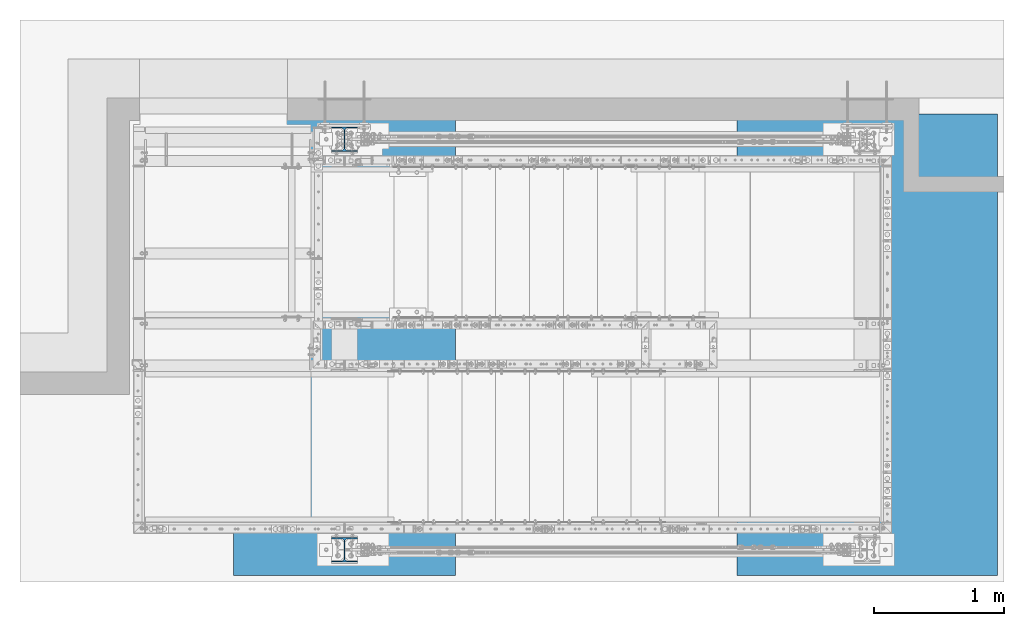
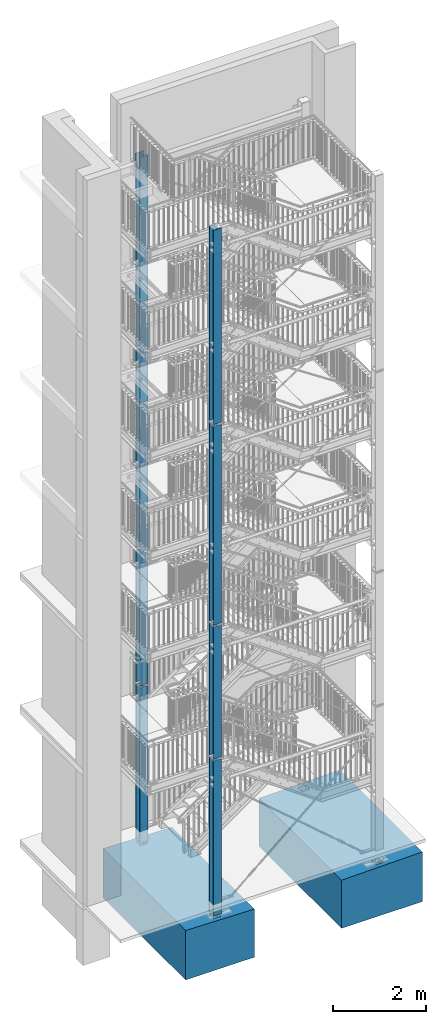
# One storey, part 1 of 831: 8 columns, 2 footings, 64 openings.
"""IFC2X3 building model written with IfcOpenShell, lengths in millimetres."""

from ifc_helpers import new_model, entity, si_unit, converted_unit, frame, origin, origin_with_axes, origin_2d, origin_2d_with_axis, place, context, project, spatial, polyline, circle, i_section, outline, extrude, clip, halfspace, material, layer, layer_set, element, save


model = new_model("IFC2X3")

# Units and contexts
model_context = context("Model", 3, precision=1e-09, world=origin_with_axes())
ifc_project = project(units=[si_unit("LENGTHUNIT", "METRE", prefix="MILLI"), si_unit("AREAUNIT", "SQUARE_METRE"), si_unit("VOLUMEUNIT", "CUBIC_METRE"), converted_unit("PLANEANGLEUNIT", "DEGREE", entity("IfcPlaneAngleMeasure", 0.01745329), si_unit("PLANEANGLEUNIT", "RADIAN"), dimensions=[0, 0, 0, 0, 0, 0, 0])], contexts=[model_context])

# Site, building, storey
site_placement = place(None, origin_with_axes())
site = spatial("IfcSite", under=ifc_project, at=site_placement, Name="Site", CompositionType="ELEMENT")
building_placement = place(site_placement, origin_with_axes())
building = spatial("IfcBuilding", under=site, at=building_placement, Name="Struktur 1", CompositionType="ELEMENT")
storey_placement = place(building_placement, origin_with_axes())
storey = spatial("IfcBuildingStorey", under=building, at=storey_placement, Name="Default Storey", CompositionType="ELEMENT", Elevation=0.0)

# Footing, openings
ifc_material_1 = material(Name="C20/25")
ifc_layer = layer(ifc_material_1, 1300.0)
ifc_layer_set = layer_set([ifc_layer], Name="C20/25")
footing_1_placement = place(None, frame((4856.713402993, 5941.736971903, -1280.0), z_axis=(0.0, 0.0, 1.0), x_axis=(1.0, 0.0, 0.0)))
footing_1 = element("IfcFooting", 1, at=footing_1_placement, inside=storey, material=ifc_layer_set, Name="Foundation", ObjectType="Foundation", context=model_context, shape_type="SweptSolid", body=[
    extrude(outline(polyline([(-850.0, -1770.0), (850.0, -1770.0), (850.0, 1770.0), (-850.0, 1770.0), (-850.0, -1770.0)])), origin_with_axes(), (0.0, 0.0, 1.0), 1300.0),
])
opening_1_placement = place(footing_1_placement, frame((0.0, 1770.1, 650.0), z_axis=(0.0, -1.0, 0.0), x_axis=(1.0, 0.0, 0.0)))
element("IfcOpeningElement", 2, at=opening_1_placement, cuts=footing_1, ObjectType="Opening", context=model_context, shape_type="SweptSolid", body=[
    extrude(outline(polyline([(1029.872382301, 800.718084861), (-1082.160017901, 800.718084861), (-1082.160017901, 649.778764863), (1172.238609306, 603.364675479), (1029.872382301, 800.718084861)])), origin(), (0.0, 0.0, 1.0), 3540.2),
])
opening_2_placement = place(footing_1_placement, frame((0.0, 0.0, 1090.0), z_axis=(0.0, 0.0, 1.0), x_axis=(1.0, 0.0, 0.0)))
element("IfcOpeningElement", 3, at=opening_2_placement, cuts=footing_1, ObjectType="Opening", context=model_context, shape_type="SweptSolid", body=[
    extrude(outline(polyline([(-90.001, -1665.001), (90.001, -1665.001), (90.001, -1484.999), (-90.001, -1484.999), (-90.001, -1665.001)])), origin(), (0.0, 0.0, 1.0), 210.1),
])
opening_3_placement = place(footing_1_placement, frame((0.0, 0.0, 1090.0), z_axis=(0.0, 0.0, 1.0), x_axis=(1.0, 0.0, 0.0)))
element("IfcOpeningElement", 4, at=opening_3_placement, cuts=footing_1, ObjectType="Opening", context=model_context, shape_type="SweptSolid", body=[
    extrude(outline(polyline([(-90.001, 1484.999), (90.001, 1484.999), (90.001, 1665.001), (-90.001, 1665.001), (-90.001, 1484.999)])), origin(), (0.0, 0.0, 1.0), 210.1),
])

footing_2_placement = place(None, frame((8866.713402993, 5941.736971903, -1280.0), z_axis=(0.0, 0.0, 1.0), x_axis=(1.0, 0.0, 0.0)))
footing_2 = element("IfcFooting", 5, at=footing_2_placement, inside=storey, material=ifc_layer_set, Name="Foundation", ObjectType="Foundation", context=model_context, shape_type="SweptSolid", body=[
    extrude(outline(polyline([(-1000.0, -1770.0), (1000.0, -1770.0), (1000.0, 1770.0), (-1000.0, 1770.0), (-1000.0, -1770.0)])), origin_with_axes(), (0.0, 0.0, 1.0), 1300.0),
])
opening_4_placement = place(footing_2_placement, frame((0.0, 1770.1, 650.0), z_axis=(0.0, -1.0, 0.0), x_axis=(1.0, 0.0, 0.0)))
element("IfcOpeningElement", 6, at=opening_4_placement, cuts=footing_2, ObjectType="Opening", context=model_context, shape_type="SweptSolid", body=[
    extrude(outline(polyline([(-1237.486642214, 605.249266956), (1326.252549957, 656.524050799), (1326.252549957, 820.352725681), (-1212.417197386, 820.352725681), (-1237.486642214, 605.249266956)])), origin(), (0.0, 0.0, 1.0), 3540.2),
])
opening_5_placement = place(footing_2_placement, frame((0.0, 0.0, 1090.0), z_axis=(0.0, 0.0, 1.0), x_axis=(1.0, 0.0, 0.0)))
element("IfcOpeningElement", 7, at=opening_5_placement, cuts=footing_2, ObjectType="Opening", context=model_context, shape_type="SweptSolid", body=[
    extrude(outline(polyline([(-90.001, 1484.999), (90.001, 1484.999), (90.001, 1665.001), (-90.001, 1665.001), (-90.001, 1484.999)])), origin(), (0.0, 0.0, 1.0), 210.1),
])
opening_6_placement = place(footing_2_placement, frame((0.0, 0.0, 1090.0), z_axis=(0.0, 0.0, 1.0), x_axis=(1.0, 0.0, 0.0)))
element("IfcOpeningElement", 8, at=opening_6_placement, cuts=footing_2, ObjectType="Opening", context=model_context, shape_type="SweptSolid", body=[
    extrude(outline(polyline([(-90.001, -1665.001), (90.001, -1665.001), (90.001, -1484.999), (-90.001, -1484.999), (-90.001, -1665.001)])), origin(), (0.0, 0.0, 1.0), 210.1),
])

# Column, openings
ifc_material_2 = material(Name="S235JR")
column_1_placement = place(None, frame((4856.713402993, 7516.736971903, 60.0), z_axis=(0.0, 0.0, -1.0), x_axis=(1.0, 0.0, 0.0)))
column_1 = element("IfcColumn", 9, at=column_1_placement, inside=storey, material=ifc_material_2, Name="Column", ObjectType="Column", context=model_context, shape_type="Clipping", body=[
    clip(extrude(i_section(OverallWidth=200.0, OverallDepth=190.0, WebThickness=6.5, FlangeThickness=10.0, FilletRadius=18.0, at=origin_2d()), origin(), (0.0, 0.0, -1.0), 4227.931142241), halfspace(frame((-4856.713402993, 7516.736971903, -4064.999), z_axis=(0.0, 0.0, 1.0), x_axis=(-1.0, 0.0, 0.0)), True)),
])
opening_7_placement = place(column_1_placement, frame((-3.75, 60.0, -12.0), z_axis=(1.0, 0.0, 0.0), x_axis=(0.0, 0.0, -1.0)))
element("IfcOpeningElement", 10, at=opening_7_placement, cuts=column_1, ObjectType="Opening", context=model_context, shape_type="SweptSolid", body=[
    extrude(circle(Radius=6.001, at=origin_2d_with_axis()), origin(), (0.0, 0.0, 1.0), 7.5),
])
opening_8_placement = place(column_1_placement, frame((-3.75, -60.0, -12.0), z_axis=(1.0, 0.0, 0.0), x_axis=(0.0, 0.0, -1.0)))
element("IfcOpeningElement", 11, at=opening_8_placement, cuts=column_1, ObjectType="Opening", context=model_context, shape_type="SweptSolid", body=[
    extrude(circle(Radius=6.001, at=origin_2d_with_axis()), origin(), (0.0, 0.0, 1.0), 7.5),
])
opening_9_placement = place(column_1_placement, frame((-60.0, 84.5, -3407.0), z_axis=(0.0, 1.0, 0.0), x_axis=(-1.0, 0.0, 0.0)))
element("IfcOpeningElement", 12, at=opening_9_placement, cuts=column_1, ObjectType="Opening", context=model_context, shape_type="SweptSolid", body=[
    extrude(circle(Radius=9.001, at=origin_2d_with_axis()), origin(), (0.0, 0.0, 1.0), 11.0),
])
opening_10_placement = place(column_1_placement, frame((60.0, 84.5, -3407.0), z_axis=(0.0, 1.0, 0.0), x_axis=(1.0, 0.0, 0.0)))
element("IfcOpeningElement", 13, at=opening_10_placement, cuts=column_1, ObjectType="Opening", context=model_context, shape_type="SweptSolid", body=[
    extrude(circle(Radius=9.001, at=origin_2d_with_axis()), origin(), (0.0, 0.0, 1.0), 11.0),
])
opening_11_placement = place(column_1_placement, frame((60.0, 84.5, -3497.0), z_axis=(0.0, 1.0, 0.0), x_axis=(1.0, 0.0, 0.0)))
element("IfcOpeningElement", 14, at=opening_11_placement, cuts=column_1, ObjectType="Opening", context=model_context, shape_type="SweptSolid", body=[
    extrude(circle(Radius=9.001, at=origin_2d_with_axis()), origin(), (0.0, 0.0, 1.0), 11.0),
])
opening_12_placement = place(column_1_placement, frame((-60.0, 84.5, -3497.0), z_axis=(0.0, 1.0, 0.0), x_axis=(-1.0, 0.0, 0.0)))
element("IfcOpeningElement", 15, at=opening_12_placement, cuts=column_1, ObjectType="Opening", context=model_context, shape_type="SweptSolid", body=[
    extrude(circle(Radius=9.001, at=origin_2d_with_axis()), origin(), (0.0, 0.0, 1.0), 11.0),
])

column_2_placement = place(None, frame((4856.713402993, 4366.736971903, 60.0), z_axis=(0.0, 0.0, -1.0), x_axis=(1.0, 0.0, 0.0)))
column_2 = element("IfcColumn", 16, at=column_2_placement, inside=storey, material=ifc_material_2, Name="Column", ObjectType="Column", context=model_context, shape_type="Clipping", body=[
    clip(extrude(i_section(OverallWidth=200.0, OverallDepth=190.0, WebThickness=6.5, FlangeThickness=10.0, FilletRadius=18.0, at=origin_2d()), origin(), (0.0, 0.0, -1.0), 4227.931142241), halfspace(frame((-4856.713402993, 4366.736971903, -4064.999), z_axis=(0.0, 0.0, 1.0), x_axis=(-1.0, 0.0, 0.0)), True)),
])
opening_13_placement = place(column_2_placement, frame((-3.75, 60.0, -12.0), z_axis=(1.0, 0.0, 0.0), x_axis=(0.0, 0.0, -1.0)))
element("IfcOpeningElement", 17, at=opening_13_placement, cuts=column_2, ObjectType="Opening", context=model_context, shape_type="SweptSolid", body=[
    extrude(circle(Radius=6.001, at=origin_2d_with_axis()), origin(), (0.0, 0.0, 1.0), 7.5),
])
opening_14_placement = place(column_2_placement, frame((-3.75, -60.0, -12.0), z_axis=(1.0, 0.0, 0.0), x_axis=(0.0, 0.0, -1.0)))
element("IfcOpeningElement", 18, at=opening_14_placement, cuts=column_2, ObjectType="Opening", context=model_context, shape_type="SweptSolid", body=[
    extrude(circle(Radius=6.001, at=origin_2d_with_axis()), origin(), (0.0, 0.0, 1.0), 7.5),
])
opening_15_placement = place(column_2_placement, frame((-60.0, -84.5, -3407.0), z_axis=(0.0, -1.0, 0.0), x_axis=(-1.0, 0.0, 0.0)))
element("IfcOpeningElement", 19, at=opening_15_placement, cuts=column_2, ObjectType="Opening", context=model_context, shape_type="SweptSolid", body=[
    extrude(circle(Radius=9.001, at=origin_2d_with_axis()), origin(), (0.0, 0.0, 1.0), 11.0),
])
opening_16_placement = place(column_2_placement, frame((60.0, -84.5, -3407.0), z_axis=(0.0, -1.0, 0.0), x_axis=(1.0, 0.0, 0.0)))
element("IfcOpeningElement", 20, at=opening_16_placement, cuts=column_2, ObjectType="Opening", context=model_context, shape_type="SweptSolid", body=[
    extrude(circle(Radius=9.001, at=origin_2d_with_axis()), origin(), (0.0, 0.0, 1.0), 11.0),
])
opening_17_placement = place(column_2_placement, frame((60.0, -84.5, -3497.0), z_axis=(0.0, -1.0, 0.0), x_axis=(1.0, 0.0, 0.0)))
element("IfcOpeningElement", 21, at=opening_17_placement, cuts=column_2, ObjectType="Opening", context=model_context, shape_type="SweptSolid", body=[
    extrude(circle(Radius=9.001, at=origin_2d_with_axis()), origin(), (0.0, 0.0, 1.0), 11.0),
])
opening_18_placement = place(column_2_placement, frame((-60.0, -84.5, -3497.0), z_axis=(0.0, -1.0, 0.0), x_axis=(-1.0, 0.0, 0.0)))
element("IfcOpeningElement", 22, at=opening_18_placement, cuts=column_2, ObjectType="Opening", context=model_context, shape_type="SweptSolid", body=[
    extrude(circle(Radius=9.001, at=origin_2d_with_axis()), origin(), (0.0, 0.0, 1.0), 11.0),
])

column_3_placement = place(None, frame((4856.713402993, 4366.736971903, 4012.068857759), z_axis=(0.0, 0.0, -1.0), x_axis=(1.0, 0.0, 0.0)))
column_3 = element("IfcColumn", 23, at=column_3_placement, inside=storey, material=ifc_material_2, Name="Column", ObjectType="Column", context=model_context, shape_type="Clipping", body=[
    clip(clip(extrude(i_section(OverallWidth=200.0, OverallDepth=190.0, WebThickness=6.5, FlangeThickness=10.0, FilletRadius=18.0, at=origin_2d()), origin(), (0.0, 0.0, -1.0), 3775.862284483), halfspace(frame((-4856.713402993, 4366.736971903, -162.932142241), z_axis=(0.0, 0.0, -1.0), x_axis=(1.0, 0.0, 0.0)), True)), halfspace(frame((-4856.713402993, 4366.736971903, -3612.930142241), z_axis=(0.0, 0.0, 1.0), x_axis=(-1.0, 0.0, 0.0)), True)),
])
opening_19_placement = place(column_3_placement, frame((-60.0, -84.5, -3017.931142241), z_axis=(0.0, -1.0, 0.0), x_axis=(-1.0, 0.0, 0.0)))
element("IfcOpeningElement", 24, at=opening_19_placement, cuts=column_3, ObjectType="Opening", context=model_context, shape_type="SweptSolid", body=[
    extrude(circle(Radius=9.001, at=origin_2d_with_axis()), origin(), (0.0, 0.0, 1.0), 11.0),
])
opening_20_placement = place(column_3_placement, frame((60.0, -84.5, -3017.931142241), z_axis=(0.0, -1.0, 0.0), x_axis=(1.0, 0.0, 0.0)))
element("IfcOpeningElement", 25, at=opening_20_placement, cuts=column_3, ObjectType="Opening", context=model_context, shape_type="SweptSolid", body=[
    extrude(circle(Radius=9.001, at=origin_2d_with_axis()), origin(), (0.0, 0.0, 1.0), 11.0),
])
opening_21_placement = place(column_3_placement, frame((-60.0, -84.5, -2927.931142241), z_axis=(0.0, -1.0, 0.0), x_axis=(-1.0, 0.0, 0.0)))
element("IfcOpeningElement", 26, at=opening_21_placement, cuts=column_3, ObjectType="Opening", context=model_context, shape_type="SweptSolid", body=[
    extrude(circle(Radius=9.001, at=origin_2d_with_axis()), origin(), (0.0, 0.0, 1.0), 11.0),
])
opening_22_placement = place(column_3_placement, frame((60.0, -84.5, -2927.931142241), z_axis=(0.0, -1.0, 0.0), x_axis=(1.0, 0.0, 0.0)))
element("IfcOpeningElement", 27, at=opening_22_placement, cuts=column_3, ObjectType="Opening", context=model_context, shape_type="SweptSolid", body=[
    extrude(circle(Radius=9.001, at=origin_2d_with_axis()), origin(), (0.0, 0.0, 1.0), 11.0),
])

column_4_placement = place(None, frame((4856.713402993, 7516.736971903, 4012.068857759), z_axis=(0.0, 0.0, -1.0), x_axis=(1.0, 0.0, 0.0)))
column_4 = element("IfcColumn", 28, at=column_4_placement, inside=storey, material=ifc_material_2, Name="Column", ObjectType="Column", context=model_context, shape_type="Clipping", body=[
    clip(clip(extrude(i_section(OverallWidth=200.0, OverallDepth=190.0, WebThickness=6.5, FlangeThickness=10.0, FilletRadius=18.0, at=origin_2d()), origin(), (0.0, 0.0, -1.0), 3775.862284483), halfspace(frame((-4856.713402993, 7516.736971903, -162.932142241), z_axis=(0.0, 0.0, -1.0), x_axis=(1.0, 0.0, 0.0)), True)), halfspace(frame((-4856.713402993, 7516.736971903, -3612.930142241), z_axis=(0.0, 0.0, 1.0), x_axis=(-1.0, 0.0, 0.0)), True)),
])
opening_23_placement = place(column_4_placement, frame((60.0, 84.5, -3017.931142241), z_axis=(0.0, 1.0, 0.0), x_axis=(1.0, 0.0, 0.0)))
element("IfcOpeningElement", 29, at=opening_23_placement, cuts=column_4, ObjectType="Opening", context=model_context, shape_type="SweptSolid", body=[
    extrude(circle(Radius=9.001, at=origin_2d_with_axis()), origin(), (0.0, 0.0, 1.0), 11.0),
])
opening_24_placement = place(column_4_placement, frame((60.0, 84.5, -2927.931142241), z_axis=(0.0, 1.0, 0.0), x_axis=(1.0, 0.0, 0.0)))
element("IfcOpeningElement", 30, at=opening_24_placement, cuts=column_4, ObjectType="Opening", context=model_context, shape_type="SweptSolid", body=[
    extrude(circle(Radius=9.001, at=origin_2d_with_axis()), origin(), (0.0, 0.0, 1.0), 11.0),
])
opening_25_placement = place(column_4_placement, frame((-60.0, 84.5, -3017.931142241), z_axis=(0.0, 1.0, 0.0), x_axis=(-1.0, 0.0, 0.0)))
element("IfcOpeningElement", 31, at=opening_25_placement, cuts=column_4, ObjectType="Opening", context=model_context, shape_type="SweptSolid", body=[
    extrude(circle(Radius=9.001, at=origin_2d_with_axis()), origin(), (0.0, 0.0, 1.0), 11.0),
])
opening_26_placement = place(column_4_placement, frame((-60.0, 84.5, -2927.931142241), z_axis=(0.0, 1.0, 0.0), x_axis=(-1.0, 0.0, 0.0)))
element("IfcOpeningElement", 32, at=opening_26_placement, cuts=column_4, ObjectType="Opening", context=model_context, shape_type="SweptSolid", body=[
    extrude(circle(Radius=9.001, at=origin_2d_with_axis()), origin(), (0.0, 0.0, 1.0), 11.0),
])

column_5_placement = place(None, frame((4856.713402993, 7516.736971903, 7512.068857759), z_axis=(0.0, 0.0, -1.0), x_axis=(1.0, 0.0, 0.0)))
column_5 = element("IfcColumn", 33, at=column_5_placement, inside=storey, material=ifc_material_2, Name="Column", ObjectType="Column", context=model_context, shape_type="Clipping", body=[
    clip(clip(extrude(i_section(OverallWidth=200.0, OverallDepth=190.0, WebThickness=6.5, FlangeThickness=10.0, FilletRadius=18.0, at=origin_2d()), origin(), (0.0, 0.0, -1.0), 5525.862284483), halfspace(frame((-4856.713402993, 7516.736971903, -162.932142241), z_axis=(0.0, 0.0, -1.0), x_axis=(1.0, 0.0, 0.0)), True)), halfspace(frame((-4856.713402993, 7516.736971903, -5362.930142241), z_axis=(0.0, 0.0, 1.0), x_axis=(-1.0, 0.0, 0.0)), True)),
])
opening_27_placement = place(column_5_placement, frame((-60.0, 84.5, -2149.931142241), z_axis=(0.0, 1.0, 0.0), x_axis=(-1.0, 0.0, 0.0)))
element("IfcOpeningElement", 34, at=opening_27_placement, cuts=column_5, ObjectType="Opening", context=model_context, shape_type="SweptSolid", body=[
    extrude(circle(Radius=9.001, at=origin_2d_with_axis()), origin(), (0.0, 0.0, 1.0), 11.0),
])
opening_28_placement = place(column_5_placement, frame((60.0, 84.5, -2059.931142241), z_axis=(0.0, 1.0, 0.0), x_axis=(1.0, 0.0, 0.0)))
element("IfcOpeningElement", 35, at=opening_28_placement, cuts=column_5, ObjectType="Opening", context=model_context, shape_type="SweptSolid", body=[
    extrude(circle(Radius=9.001, at=origin_2d_with_axis()), origin(), (0.0, 0.0, 1.0), 11.0),
])
opening_29_placement = place(column_5_placement, frame((60.0, 84.5, -4686.931142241), z_axis=(0.0, 1.0, 0.0), x_axis=(1.0, 0.0, 0.0)))
element("IfcOpeningElement", 36, at=opening_29_placement, cuts=column_5, ObjectType="Opening", context=model_context, shape_type="SweptSolid", body=[
    extrude(circle(Radius=9.001, at=origin_2d_with_axis()), origin(), (0.0, 0.0, 1.0), 11.0),
])
opening_30_placement = place(column_5_placement, frame((-60.0, 84.5, -4776.931142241), z_axis=(0.0, 1.0, 0.0), x_axis=(-1.0, 0.0, 0.0)))
element("IfcOpeningElement", 37, at=opening_30_placement, cuts=column_5, ObjectType="Opening", context=model_context, shape_type="SweptSolid", body=[
    extrude(circle(Radius=9.001, at=origin_2d_with_axis()), origin(), (0.0, 0.0, 1.0), 11.0),
])
opening_31_placement = place(column_5_placement, frame((60.0, 84.5, -2149.931142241), z_axis=(0.0, 1.0, 0.0), x_axis=(1.0, 0.0, 0.0)))
element("IfcOpeningElement", 38, at=opening_31_placement, cuts=column_5, ObjectType="Opening", context=model_context, shape_type="SweptSolid", body=[
    extrude(circle(Radius=9.001, at=origin_2d_with_axis()), origin(), (0.0, 0.0, 1.0), 11.0),
])
opening_32_placement = place(column_5_placement, frame((-60.0, 84.5, -4686.931142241), z_axis=(0.0, 1.0, 0.0), x_axis=(-1.0, 0.0, 0.0)))
element("IfcOpeningElement", 39, at=opening_32_placement, cuts=column_5, ObjectType="Opening", context=model_context, shape_type="SweptSolid", body=[
    extrude(circle(Radius=9.001, at=origin_2d_with_axis()), origin(), (0.0, 0.0, 1.0), 11.0),
])
opening_33_placement = place(column_5_placement, frame((-60.0, 84.5, -2059.931142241), z_axis=(0.0, 1.0, 0.0), x_axis=(-1.0, 0.0, 0.0)))
element("IfcOpeningElement", 40, at=opening_33_placement, cuts=column_5, ObjectType="Opening", context=model_context, shape_type="SweptSolid", body=[
    extrude(circle(Radius=9.001, at=origin_2d_with_axis()), origin(), (0.0, 0.0, 1.0), 11.0),
])
opening_34_placement = place(column_5_placement, frame((60.0, 84.5, -4776.931142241), z_axis=(0.0, 1.0, 0.0), x_axis=(1.0, 0.0, 0.0)))
element("IfcOpeningElement", 41, at=opening_34_placement, cuts=column_5, ObjectType="Opening", context=model_context, shape_type="SweptSolid", body=[
    extrude(circle(Radius=9.001, at=origin_2d_with_axis()), origin(), (0.0, 0.0, 1.0), 11.0),
])

column_6_placement = place(None, frame((4856.713402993, 7516.736971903, 12762.068857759), z_axis=(0.0, 0.0, -1.0), x_axis=(1.0, 0.0, 0.0)))
column_6 = element("IfcColumn", 42, at=column_6_placement, inside=storey, material=ifc_material_2, Name="Column", ObjectType="Column", context=model_context, shape_type="Clipping", body=[
    clip(extrude(i_section(OverallWidth=200.0, OverallDepth=190.0, WebThickness=6.5, FlangeThickness=10.0, FilletRadius=18.0, at=origin_2d()), origin(), (0.0, 0.0, -1.0), 5251.931142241), halfspace(frame((-4856.713402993, 7516.736971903, -162.932142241), z_axis=(0.0, 0.0, -1.0), x_axis=(1.0, 0.0, 0.0)), True)),
])
opening_35_placement = place(column_6_placement, frame((-60.0, 84.5, -4781.93114224), z_axis=(0.0, 1.0, 0.0), x_axis=(-1.0, 0.0, 0.0)))
element("IfcOpeningElement", 43, at=opening_35_placement, cuts=column_6, ObjectType="Opening", context=model_context, shape_type="SweptSolid", body=[
    extrude(circle(Radius=9.001, at=origin_2d_with_axis()), origin(), (0.0, 0.0, 1.0), 11.0),
])
opening_36_placement = place(column_6_placement, frame((-60.0, 84.5, -4691.93114224), z_axis=(0.0, 1.0, 0.0), x_axis=(-1.0, 0.0, 0.0)))
element("IfcOpeningElement", 44, at=opening_36_placement, cuts=column_6, ObjectType="Opening", context=model_context, shape_type="SweptSolid", body=[
    extrude(circle(Radius=9.001, at=origin_2d_with_axis()), origin(), (0.0, 0.0, 1.0), 11.0),
])
opening_37_placement = place(column_6_placement, frame((3.75, 35.0, -5011.93114224), z_axis=(-1.0, 0.0, 0.0), x_axis=(0.0, 1.0, 0.0)))
element("IfcOpeningElement", 45, at=opening_37_placement, cuts=column_6, ObjectType="Opening", context=model_context, shape_type="SweptSolid", body=[
    extrude(circle(Radius=9.001, at=origin_2d_with_axis()), origin(), (0.0, 0.0, 1.0), 7.5),
])
opening_38_placement = place(column_6_placement, frame((60.0, 84.5, -4691.93114224), z_axis=(0.0, 1.0, 0.0), x_axis=(1.0, 0.0, 0.0)))
element("IfcOpeningElement", 46, at=opening_38_placement, cuts=column_6, ObjectType="Opening", context=model_context, shape_type="SweptSolid", body=[
    extrude(circle(Radius=9.001, at=origin_2d_with_axis()), origin(), (0.0, 0.0, 1.0), 11.0),
])
opening_39_placement = place(column_6_placement, frame((3.75, -35.0, -5011.93114224), z_axis=(-1.0, 0.0, 0.0), x_axis=(0.0, -1.0, 0.0)))
element("IfcOpeningElement", 47, at=opening_39_placement, cuts=column_6, ObjectType="Opening", context=model_context, shape_type="SweptSolid", body=[
    extrude(circle(Radius=9.001, at=origin_2d_with_axis()), origin(), (0.0, 0.0, 1.0), 7.5),
])
opening_40_placement = place(column_6_placement, frame((3.75, 35.0, -4891.93114224), z_axis=(-1.0, 0.0, 0.0), x_axis=(0.0, 1.0, 0.0)))
element("IfcOpeningElement", 48, at=opening_40_placement, cuts=column_6, ObjectType="Opening", context=model_context, shape_type="SweptSolid", body=[
    extrude(circle(Radius=9.001, at=origin_2d_with_axis()), origin(), (0.0, 0.0, 1.0), 7.5),
])
opening_41_placement = place(column_6_placement, frame((3.75, -35.0, -4891.93114224), z_axis=(-1.0, 0.0, 0.0), x_axis=(0.0, -1.0, 0.0)))
element("IfcOpeningElement", 49, at=opening_41_placement, cuts=column_6, ObjectType="Opening", context=model_context, shape_type="SweptSolid", body=[
    extrude(circle(Radius=9.001, at=origin_2d_with_axis()), origin(), (0.0, 0.0, 1.0), 7.5),
])
opening_42_placement = place(column_6_placement, frame((3.75, -35.0, -5111.93114224), z_axis=(-1.0, 0.0, 0.0), x_axis=(0.0, -1.0, 0.0)))
element("IfcOpeningElement", 50, at=opening_42_placement, cuts=column_6, ObjectType="Opening", context=model_context, shape_type="SweptSolid", body=[
    extrude(circle(Radius=9.001, at=origin_2d_with_axis()), origin(), (0.0, 0.0, 1.0), 7.5),
])
opening_43_placement = place(column_6_placement, frame((60.0, 84.5, -4781.93114224), z_axis=(0.0, 1.0, 0.0), x_axis=(1.0, 0.0, 0.0)))
element("IfcOpeningElement", 51, at=opening_43_placement, cuts=column_6, ObjectType="Opening", context=model_context, shape_type="SweptSolid", body=[
    extrude(circle(Radius=9.001, at=origin_2d_with_axis()), origin(), (0.0, 0.0, 1.0), 11.0),
])
opening_44_placement = place(column_6_placement, frame((3.75, 35.0, -5111.93114224), z_axis=(-1.0, 0.0, 0.0), x_axis=(0.0, 1.0, 0.0)))
element("IfcOpeningElement", 52, at=opening_44_placement, cuts=column_6, ObjectType="Opening", context=model_context, shape_type="SweptSolid", body=[
    extrude(circle(Radius=9.001, at=origin_2d_with_axis()), origin(), (0.0, 0.0, 1.0), 7.5),
])
opening_45_placement = place(column_6_placement, frame((60.0, 84.5, -2071.931142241), z_axis=(0.0, 1.0, 0.0), x_axis=(1.0, 0.0, 0.0)))
element("IfcOpeningElement", 53, at=opening_45_placement, cuts=column_6, ObjectType="Opening", context=model_context, shape_type="SweptSolid", body=[
    extrude(circle(Radius=9.001, at=origin_2d_with_axis()), origin(), (0.0, 0.0, 1.0), 11.0),
])
opening_46_placement = place(column_6_placement, frame((-60.0, 84.5, -2161.931142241), z_axis=(0.0, 1.0, 0.0), x_axis=(-1.0, 0.0, 0.0)))
element("IfcOpeningElement", 54, at=opening_46_placement, cuts=column_6, ObjectType="Opening", context=model_context, shape_type="SweptSolid", body=[
    extrude(circle(Radius=9.001, at=origin_2d_with_axis()), origin(), (0.0, 0.0, 1.0), 11.0),
])
opening_47_placement = place(column_6_placement, frame((60.0, 84.5, -2161.931142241), z_axis=(0.0, 1.0, 0.0), x_axis=(1.0, 0.0, 0.0)))
element("IfcOpeningElement", 55, at=opening_47_placement, cuts=column_6, ObjectType="Opening", context=model_context, shape_type="SweptSolid", body=[
    extrude(circle(Radius=9.001, at=origin_2d_with_axis()), origin(), (0.0, 0.0, 1.0), 11.0),
])
opening_48_placement = place(column_6_placement, frame((-60.0, 84.5, -2071.931142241), z_axis=(0.0, 1.0, 0.0), x_axis=(-1.0, 0.0, 0.0)))
element("IfcOpeningElement", 56, at=opening_48_placement, cuts=column_6, ObjectType="Opening", context=model_context, shape_type="SweptSolid", body=[
    extrude(circle(Radius=9.001, at=origin_2d_with_axis()), origin(), (0.0, 0.0, 1.0), 11.0),
])

column_7_placement = place(None, frame((4856.713402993, 4366.736971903, 7512.068857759), z_axis=(0.0, 0.0, -1.0), x_axis=(1.0, 0.0, 0.0)))
column_7 = element("IfcColumn", 57, at=column_7_placement, inside=storey, material=ifc_material_2, Name="Column", ObjectType="Column", context=model_context, shape_type="Clipping", body=[
    clip(clip(extrude(i_section(OverallWidth=200.0, OverallDepth=190.0, WebThickness=6.5, FlangeThickness=10.0, FilletRadius=18.0, at=origin_2d()), origin(), (0.0, 0.0, -1.0), 5525.862284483), halfspace(frame((-4856.713402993, 4366.736971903, -162.932142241), z_axis=(0.0, 0.0, -1.0), x_axis=(1.0, 0.0, 0.0)), True)), halfspace(frame((-4856.713402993, 4366.736971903, -5362.930142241), z_axis=(0.0, 0.0, 1.0), x_axis=(-1.0, 0.0, 0.0)), True)),
])
opening_49_placement = place(column_7_placement, frame((60.0, -84.5, -2059.931142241), z_axis=(0.0, -1.0, 0.0), x_axis=(1.0, 0.0, 0.0)))
element("IfcOpeningElement", 58, at=opening_49_placement, cuts=column_7, ObjectType="Opening", context=model_context, shape_type="SweptSolid", body=[
    extrude(circle(Radius=9.001, at=origin_2d_with_axis()), origin(), (0.0, 0.0, 1.0), 11.0),
])
opening_50_placement = place(column_7_placement, frame((60.0, -84.5, -2149.931142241), z_axis=(0.0, -1.0, 0.0), x_axis=(1.0, 0.0, 0.0)))
element("IfcOpeningElement", 59, at=opening_50_placement, cuts=column_7, ObjectType="Opening", context=model_context, shape_type="SweptSolid", body=[
    extrude(circle(Radius=9.001, at=origin_2d_with_axis()), origin(), (0.0, 0.0, 1.0), 11.0),
])
opening_51_placement = place(column_7_placement, frame((60.0, -84.5, -4686.931142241), z_axis=(0.0, -1.0, 0.0), x_axis=(1.0, 0.0, 0.0)))
element("IfcOpeningElement", 60, at=opening_51_placement, cuts=column_7, ObjectType="Opening", context=model_context, shape_type="SweptSolid", body=[
    extrude(circle(Radius=9.001, at=origin_2d_with_axis()), origin(), (0.0, 0.0, 1.0), 11.0),
])
opening_52_placement = place(column_7_placement, frame((60.0, -84.5, -4776.931142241), z_axis=(0.0, -1.0, 0.0), x_axis=(1.0, 0.0, 0.0)))
element("IfcOpeningElement", 61, at=opening_52_placement, cuts=column_7, ObjectType="Opening", context=model_context, shape_type="SweptSolid", body=[
    extrude(circle(Radius=9.001, at=origin_2d_with_axis()), origin(), (0.0, 0.0, 1.0), 11.0),
])
opening_53_placement = place(column_7_placement, frame((-60.0, -84.5, -2059.931142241), z_axis=(0.0, -1.0, 0.0), x_axis=(-1.0, 0.0, 0.0)))
element("IfcOpeningElement", 62, at=opening_53_placement, cuts=column_7, ObjectType="Opening", context=model_context, shape_type="SweptSolid", body=[
    extrude(circle(Radius=9.001, at=origin_2d_with_axis()), origin(), (0.0, 0.0, 1.0), 11.0),
])
opening_54_placement = place(column_7_placement, frame((-60.0, -84.5, -4686.931142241), z_axis=(0.0, -1.0, 0.0), x_axis=(-1.0, 0.0, 0.0)))
element("IfcOpeningElement", 63, at=opening_54_placement, cuts=column_7, ObjectType="Opening", context=model_context, shape_type="SweptSolid", body=[
    extrude(circle(Radius=9.001, at=origin_2d_with_axis()), origin(), (0.0, 0.0, 1.0), 11.0),
])
opening_55_placement = place(column_7_placement, frame((-60.0, -84.5, -4776.931142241), z_axis=(0.0, -1.0, 0.0), x_axis=(-1.0, 0.0, 0.0)))
element("IfcOpeningElement", 64, at=opening_55_placement, cuts=column_7, ObjectType="Opening", context=model_context, shape_type="SweptSolid", body=[
    extrude(circle(Radius=9.001, at=origin_2d_with_axis()), origin(), (0.0, 0.0, 1.0), 11.0),
])
opening_56_placement = place(column_7_placement, frame((-60.0, -84.5, -2149.931142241), z_axis=(0.0, -1.0, 0.0), x_axis=(-1.0, 0.0, 0.0)))
element("IfcOpeningElement", 65, at=opening_56_placement, cuts=column_7, ObjectType="Opening", context=model_context, shape_type="SweptSolid", body=[
    extrude(circle(Radius=9.001, at=origin_2d_with_axis()), origin(), (0.0, 0.0, 1.0), 11.0),
])

column_8_placement = place(None, frame((4856.713402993, 4366.736971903, 12762.068857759), z_axis=(0.0, 0.0, -1.0), x_axis=(1.0, 0.0, 0.0)))
column_8 = element("IfcColumn", 66, at=column_8_placement, inside=storey, material=ifc_material_2, Name="Column", ObjectType="Column", context=model_context, shape_type="Clipping", body=[
    clip(extrude(i_section(OverallWidth=200.0, OverallDepth=190.0, WebThickness=6.5, FlangeThickness=10.0, FilletRadius=18.0, at=origin_2d()), origin(), (0.0, 0.0, -1.0), 5251.931142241), halfspace(frame((-4856.713402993, 4366.736971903, -162.932142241), z_axis=(0.0, 0.0, -1.0), x_axis=(1.0, 0.0, 0.0)), True)),
])
opening_57_placement = place(column_8_placement, frame((-60.0, -84.5, -4691.93114224), z_axis=(0.0, -1.0, 0.0), x_axis=(-1.0, 0.0, 0.0)))
element("IfcOpeningElement", 67, at=opening_57_placement, cuts=column_8, ObjectType="Opening", context=model_context, shape_type="SweptSolid", body=[
    extrude(circle(Radius=9.001, at=origin_2d_with_axis()), origin(), (0.0, 0.0, 1.0), 11.0),
])
opening_58_placement = place(column_8_placement, frame((60.0, -84.5, -4781.93114224), z_axis=(0.0, -1.0, 0.0), x_axis=(1.0, 0.0, 0.0)))
element("IfcOpeningElement", 68, at=opening_58_placement, cuts=column_8, ObjectType="Opening", context=model_context, shape_type="SweptSolid", body=[
    extrude(circle(Radius=9.001, at=origin_2d_with_axis()), origin(), (0.0, 0.0, 1.0), 11.0),
])
opening_59_placement = place(column_8_placement, frame((60.0, -84.5, -4691.93114224), z_axis=(0.0, -1.0, 0.0), x_axis=(1.0, 0.0, 0.0)))
element("IfcOpeningElement", 69, at=opening_59_placement, cuts=column_8, ObjectType="Opening", context=model_context, shape_type="SweptSolid", body=[
    extrude(circle(Radius=9.001, at=origin_2d_with_axis()), origin(), (0.0, 0.0, 1.0), 11.0),
])
opening_60_placement = place(column_8_placement, frame((-60.0, -84.5, -4781.93114224), z_axis=(0.0, -1.0, 0.0), x_axis=(-1.0, 0.0, 0.0)))
element("IfcOpeningElement", 70, at=opening_60_placement, cuts=column_8, ObjectType="Opening", context=model_context, shape_type="SweptSolid", body=[
    extrude(circle(Radius=9.001, at=origin_2d_with_axis()), origin(), (0.0, 0.0, 1.0), 11.0),
])
opening_61_placement = place(column_8_placement, frame((-60.0, -84.5, -2161.931142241), z_axis=(0.0, -1.0, 0.0), x_axis=(-1.0, 0.0, 0.0)))
element("IfcOpeningElement", 71, at=opening_61_placement, cuts=column_8, ObjectType="Opening", context=model_context, shape_type="SweptSolid", body=[
    extrude(circle(Radius=9.001, at=origin_2d_with_axis()), origin(), (0.0, 0.0, 1.0), 11.0),
])
opening_62_placement = place(column_8_placement, frame((60.0, -84.5, -2161.931142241), z_axis=(0.0, -1.0, 0.0), x_axis=(1.0, 0.0, 0.0)))
element("IfcOpeningElement", 72, at=opening_62_placement, cuts=column_8, ObjectType="Opening", context=model_context, shape_type="SweptSolid", body=[
    extrude(circle(Radius=9.001, at=origin_2d_with_axis()), origin(), (0.0, 0.0, 1.0), 11.0),
])
opening_63_placement = place(column_8_placement, frame((-60.0, -84.5, -2071.931142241), z_axis=(0.0, -1.0, 0.0), x_axis=(-1.0, 0.0, 0.0)))
element("IfcOpeningElement", 73, at=opening_63_placement, cuts=column_8, ObjectType="Opening", context=model_context, shape_type="SweptSolid", body=[
    extrude(circle(Radius=9.001, at=origin_2d_with_axis()), origin(), (0.0, 0.0, 1.0), 11.0),
])
opening_64_placement = place(column_8_placement, frame((60.0, -84.5, -2071.931142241), z_axis=(0.0, -1.0, 0.0), x_axis=(1.0, 0.0, 0.0)))
element("IfcOpeningElement", 74, at=opening_64_placement, cuts=column_8, ObjectType="Opening", context=model_context, shape_type="SweptSolid", body=[
    extrude(circle(Radius=9.001, at=origin_2d_with_axis()), origin(), (0.0, 0.0, 1.0), 11.0),
])

save(model, "model.ifc")
